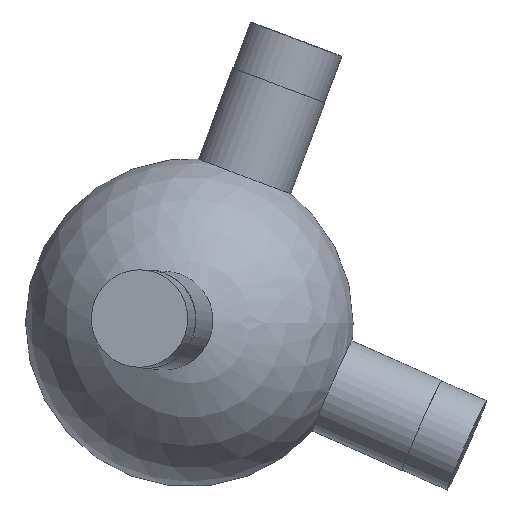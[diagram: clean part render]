
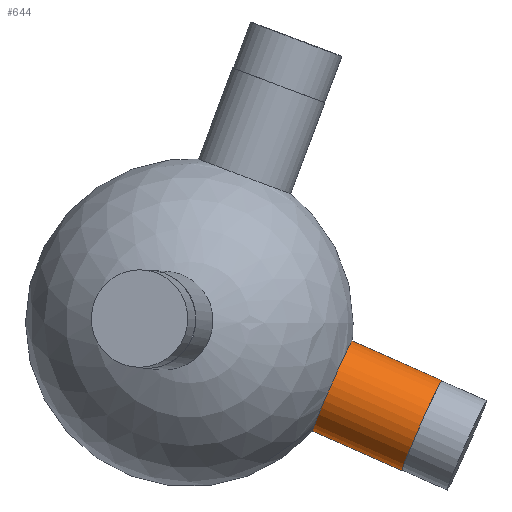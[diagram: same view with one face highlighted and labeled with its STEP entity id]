
A CAD part, top view. The second image highlights one B-rep face of the part: STEP entity #644.
In plain terms, the highlighted cylindrical face has radius 6 mm (diameter 12 mm), a full revolution.
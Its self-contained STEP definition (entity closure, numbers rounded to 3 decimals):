
#33 = SPHERICAL_SURFACE('',#34,20.);
#34 = AXIS2_PLACEMENT_3D('',#35,#36,#37);
#35 = CARTESIAN_POINT('',(0.,0.,0.));
#36 = DIRECTION('',(0.,0.,1.));
#37 = DIRECTION('',(1.,0.,-0.));
#394 = EDGE_CURVE('',#395,#395,#397,.T.);
#395 = VERTEX_POINT('',#396);
#396 = CARTESIAN_POINT('',(19.868,-2.218,
    0.601));
#397 = SURFACE_CURVE('',#398,(#403,#465),.PCURVE_S1.);
#398 = CIRCLE('',#399,6.);
#399 = AXIS2_PLACEMENT_3D('',#400,#401,#402);
#400 = CARTESIAN_POINT('',(17.443,-7.706,
    0.601));
#401 = DIRECTION('',(0.914,-0.404,0.032));
#402 = DIRECTION('',(0.404,0.915,0.));
#403 = PCURVE('',#33,#404);
#404 = DEFINITIONAL_REPRESENTATION('',(#405),#464);
#405 = B_SPLINE_CURVE_WITH_KNOTS('',8,(#406,#407,#408,#409,#410,#411,
    #412,#413,#414,#415,#416,#417,#418,#419,#420,#421,#422,#423,#424,
    #425,#426,#427,#428,#429,#430,#431,#432,#433,#434,#435,#436,#437,
    #438,#439,#440,#441,#442,#443,#444,#445,#446,#447,#448,#449,#450,
    #451,#452,#453,#454,#455,#456,#457,#458,#459,#460,#461,#462,#463),
  .UNSPECIFIED.,.F.,.F.,(9,7,7,7,7,7,7,7,9),(0.,0.785,
    1.473,2.074,3.126,3.915,
    4.507,5.395,6.283),.UNSPECIFIED.);
#406 = CARTESIAN_POINT('',(6.172,0.03));
#407 = CARTESIAN_POINT('',(6.172,0.06));
#408 = CARTESIAN_POINT('',(6.169,0.089));
#409 = CARTESIAN_POINT('',(6.163,0.118));
#410 = CARTESIAN_POINT('',(6.154,0.146));
#411 = CARTESIAN_POINT('',(6.142,0.174));
#412 = CARTESIAN_POINT('',(6.127,0.199));
#413 = CARTESIAN_POINT('',(6.108,0.223));
#414 = CARTESIAN_POINT('',(6.069,0.263));
#415 = CARTESIAN_POINT('',(6.049,0.28));
#416 = CARTESIAN_POINT('',(6.027,0.295));
#417 = CARTESIAN_POINT('',(6.003,0.308));
#418 = CARTESIAN_POINT('',(5.978,0.319));
#419 = CARTESIAN_POINT('',(5.952,0.327));
#420 = CARTESIAN_POINT('',(5.925,0.332));
#421 = CARTESIAN_POINT('',(5.875,0.337));
#422 = CARTESIAN_POINT('',(5.851,0.337));
#423 = CARTESIAN_POINT('',(5.827,0.336));
#424 = CARTESIAN_POINT('',(5.803,0.332));
#425 = CARTESIAN_POINT('',(5.78,0.326));
#426 = CARTESIAN_POINT('',(5.757,0.318));
#427 = CARTESIAN_POINT('',(5.736,0.308));
#428 = CARTESIAN_POINT('',(5.68,0.277));
#429 = CARTESIAN_POINT('',(5.648,0.252));
#430 = CARTESIAN_POINT('',(5.62,0.222));
#431 = CARTESIAN_POINT('',(5.597,0.189));
#432 = CARTESIAN_POINT('',(5.58,0.152));
#433 = CARTESIAN_POINT('',(5.568,0.114));
#434 = CARTESIAN_POINT('',(5.563,0.074));
#435 = CARTESIAN_POINT('',(5.562,0.005));
#436 = CARTESIAN_POINT('',(5.565,-0.025));
#437 = CARTESIAN_POINT('',(5.571,-0.054));
#438 = CARTESIAN_POINT('',(5.581,-0.082));
#439 = CARTESIAN_POINT('',(5.593,-0.109));
#440 = CARTESIAN_POINT('',(5.609,-0.135));
#441 = CARTESIAN_POINT('',(5.627,-0.159));
#442 = CARTESIAN_POINT('',(5.663,-0.197));
#443 = CARTESIAN_POINT('',(5.68,-0.211));
#444 = CARTESIAN_POINT('',(5.698,-0.225));
#445 = CARTESIAN_POINT('',(5.717,-0.237));
#446 = CARTESIAN_POINT('',(5.738,-0.247));
#447 = CARTESIAN_POINT('',(5.759,-0.255));
#448 = CARTESIAN_POINT('',(5.781,-0.262));
#449 = CARTESIAN_POINT('',(5.838,-0.274));
#450 = CARTESIAN_POINT('',(5.872,-0.276));
#451 = CARTESIAN_POINT('',(5.907,-0.275));
#452 = CARTESIAN_POINT('',(5.942,-0.269));
#453 = CARTESIAN_POINT('',(5.975,-0.258));
#454 = CARTESIAN_POINT('',(6.007,-0.244));
#455 = CARTESIAN_POINT('',(6.036,-0.225));
#456 = CARTESIAN_POINT('',(6.088,-0.183));
#457 = CARTESIAN_POINT('',(6.111,-0.158));
#458 = CARTESIAN_POINT('',(6.131,-0.13));
#459 = CARTESIAN_POINT('',(6.147,-0.101));
#460 = CARTESIAN_POINT('',(6.159,-0.069));
#461 = CARTESIAN_POINT('',(6.167,-0.036));
#462 = CARTESIAN_POINT('',(6.172,-0.003));
#463 = CARTESIAN_POINT('',(6.172,0.03));
#464 = ( GEOMETRIC_REPRESENTATION_CONTEXT(2) 
PARAMETRIC_REPRESENTATION_CONTEXT() REPRESENTATION_CONTEXT('2D SPACE',''
  ) );
#465 = PCURVE('',#466,#471);
#466 = CYLINDRICAL_SURFACE('',#467,6.);
#467 = AXIS2_PLACEMENT_3D('',#468,#469,#470);
#468 = CARTESIAN_POINT('',(0.,0.,0.));
#469 = DIRECTION('',(0.914,-0.404,0.032));
#470 = DIRECTION('',(0.404,0.915,0.));
#471 = DEFINITIONAL_REPRESENTATION('',(#472),#476);
#472 = LINE('',#473,#474);
#473 = CARTESIAN_POINT('',(0.,19.079));
#474 = VECTOR('',#475,1.);
#475 = DIRECTION('',(1.,0.));
#476 = ( GEOMETRIC_REPRESENTATION_CONTEXT(2) 
PARAMETRIC_REPRESENTATION_CONTEXT() REPRESENTATION_CONTEXT('2D SPACE',''
  ) );
#644 = ADVANCED_FACE('',(#645),#466,.T.);
#645 = FACE_BOUND('',#646,.T.);
#646 = EDGE_LOOP('',(#647,#670,#697,#698));
#647 = ORIENTED_EDGE('',*,*,#648,.T.);
#648 = EDGE_CURVE('',#395,#649,#651,.T.);
#649 = VERTEX_POINT('',#650);
#650 = CARTESIAN_POINT('',(30.767,-7.033,
    0.977));
#651 = SEAM_CURVE('',#652,(#656,#663),.PCURVE_S1.);
#652 = LINE('',#653,#654);
#653 = CARTESIAN_POINT('',(2.425,5.488,
    0.));
#654 = VECTOR('',#655,1.);
#655 = DIRECTION('',(0.914,-0.404,0.032));
#656 = PCURVE('',#466,#657);
#657 = DEFINITIONAL_REPRESENTATION('',(#658),#662);
#658 = LINE('',#659,#660);
#659 = CARTESIAN_POINT('',(6.283,-0.));
#660 = VECTOR('',#661,1.);
#661 = DIRECTION('',(0.,1.));
#662 = ( GEOMETRIC_REPRESENTATION_CONTEXT(2) 
PARAMETRIC_REPRESENTATION_CONTEXT() REPRESENTATION_CONTEXT('2D SPACE',''
  ) );
#663 = PCURVE('',#466,#664);
#664 = DEFINITIONAL_REPRESENTATION('',(#665),#669);
#665 = LINE('',#666,#667);
#666 = CARTESIAN_POINT('',(0.,-0.));
#667 = VECTOR('',#668,1.);
#668 = DIRECTION('',(0.,1.));
#669 = ( GEOMETRIC_REPRESENTATION_CONTEXT(2) 
PARAMETRIC_REPRESENTATION_CONTEXT() REPRESENTATION_CONTEXT('2D SPACE',''
  ) );
#670 = ORIENTED_EDGE('',*,*,#671,.F.);
#671 = EDGE_CURVE('',#649,#649,#672,.T.);
#672 = SURFACE_CURVE('',#673,(#678,#685),.PCURVE_S1.);
#673 = CIRCLE('',#674,6.);
#674 = AXIS2_PLACEMENT_3D('',#675,#676,#677);
#675 = CARTESIAN_POINT('',(28.342,-12.521,0.977
    ));
#676 = DIRECTION('',(0.914,-0.404,0.032));
#677 = DIRECTION('',(0.404,0.915,0.));
#678 = PCURVE('',#466,#679);
#679 = DEFINITIONAL_REPRESENTATION('',(#680),#684);
#680 = LINE('',#681,#682);
#681 = CARTESIAN_POINT('',(0.,31.));
#682 = VECTOR('',#683,1.);
#683 = DIRECTION('',(1.,0.));
#684 = ( GEOMETRIC_REPRESENTATION_CONTEXT(2) 
PARAMETRIC_REPRESENTATION_CONTEXT() REPRESENTATION_CONTEXT('2D SPACE',''
  ) );
#685 = PCURVE('',#686,#691);
#686 = PLANE('',#687);
#687 = AXIS2_PLACEMENT_3D('',#688,#689,#690);
#688 = CARTESIAN_POINT('',(28.342,-12.521,0.977
    ));
#689 = DIRECTION('',(0.914,-0.404,0.032));
#690 = DIRECTION('',(0.404,0.915,0.));
#691 = DEFINITIONAL_REPRESENTATION('',(#692),#696);
#692 = CIRCLE('',#693,6.);
#693 = AXIS2_PLACEMENT_2D('',#694,#695);
#694 = CARTESIAN_POINT('',(0.,0.));
#695 = DIRECTION('',(1.,0.));
#696 = ( GEOMETRIC_REPRESENTATION_CONTEXT(2) 
PARAMETRIC_REPRESENTATION_CONTEXT() REPRESENTATION_CONTEXT('2D SPACE',''
  ) );
#697 = ORIENTED_EDGE('',*,*,#648,.F.);
#698 = ORIENTED_EDGE('',*,*,#394,.T.);
